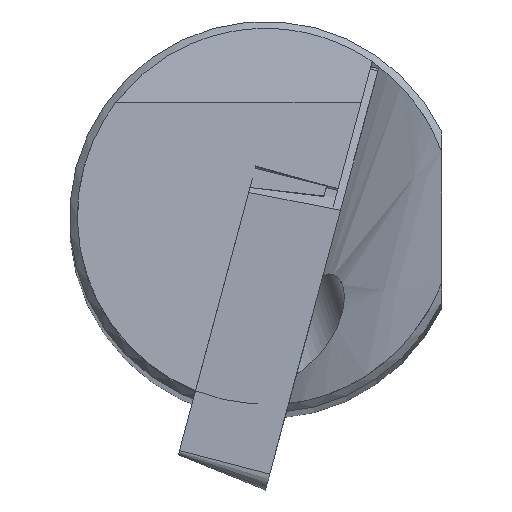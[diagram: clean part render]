
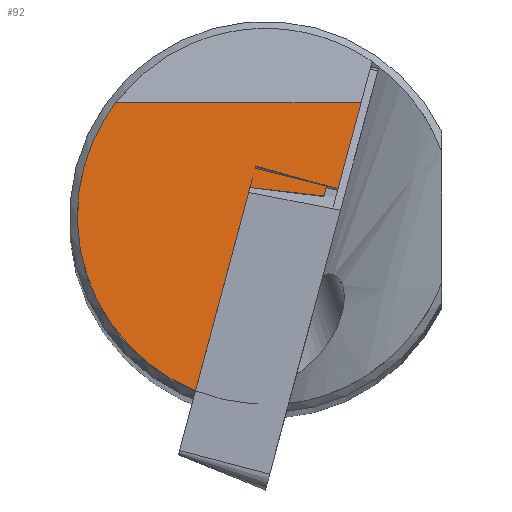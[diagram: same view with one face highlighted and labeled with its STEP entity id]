
A CAD part, top view. The second image highlights one B-rep face of the part: STEP entity #92.
In plain terms, the highlighted planar face has unit normal (0, 0.054, 0.999).
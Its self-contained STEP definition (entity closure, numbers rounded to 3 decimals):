
#92=ADVANCED_FACE('',(#157),#130,.F.);
#130=PLANE('',#701);
#157=FACE_OUTER_BOUND('',#191,.T.);
#191=EDGE_LOOP('',(#342,#343,#344,#345,#346,#347,#348,#349,#350));
#234=LINE('',#949,#288);
#235=LINE('',#951,#289);
#236=LINE('',#953,#290);
#237=LINE('',#955,#291);
#238=LINE('',#957,#292);
#239=LINE('',#959,#293);
#240=LINE('',#961,#294);
#241=LINE('',#963,#295);
#288=VECTOR('',#767,1.);
#289=VECTOR('',#768,1.);
#290=VECTOR('',#769,1.);
#291=VECTOR('',#770,1.);
#292=VECTOR('',#771,1.);
#293=VECTOR('',#772,1.);
#294=VECTOR('',#773,1.);
#295=VECTOR('',#774,1.);
#342=ORIENTED_EDGE('',*,*,#593,.F.);
#343=ORIENTED_EDGE('',*,*,#594,.F.);
#344=ORIENTED_EDGE('',*,*,#595,.F.);
#345=ORIENTED_EDGE('',*,*,#596,.T.);
#346=ORIENTED_EDGE('',*,*,#597,.T.);
#347=ORIENTED_EDGE('',*,*,#598,.F.);
#348=ORIENTED_EDGE('',*,*,#599,.T.);
#349=ORIENTED_EDGE('',*,*,#600,.F.);
#350=ORIENTED_EDGE('',*,*,#601,.T.);
#530=VERTEX_POINT('',#947);
#531=VERTEX_POINT('',#948);
#532=VERTEX_POINT('',#950);
#533=VERTEX_POINT('',#952);
#534=VERTEX_POINT('',#954);
#535=VERTEX_POINT('',#956);
#536=VERTEX_POINT('',#958);
#537=VERTEX_POINT('',#960);
#538=VERTEX_POINT('',#962);
#593=EDGE_CURVE('',#530,#531,#687,.T.);
#594=EDGE_CURVE('',#532,#530,#234,.T.);
#595=EDGE_CURVE('',#533,#532,#235,.T.);
#596=EDGE_CURVE('',#533,#534,#236,.T.);
#597=EDGE_CURVE('',#534,#535,#237,.T.);
#598=EDGE_CURVE('',#536,#535,#238,.T.);
#599=EDGE_CURVE('',#536,#537,#239,.T.);
#600=EDGE_CURVE('',#538,#537,#240,.T.);
#601=EDGE_CURVE('',#538,#531,#241,.T.);
#687=ELLIPSE('',#700,4.807,4.8);
#700=AXIS2_PLACEMENT_3D('',#946,#765,#766);
#701=AXIS2_PLACEMENT_3D('',#964,#775,#776);
#765=DIRECTION('',(0.,-0.054,-0.999));
#766=DIRECTION('',(0.,-0.999,0.054));
#767=DIRECTION('',(-0.258,-0.965,0.052));
#768=DIRECTION('',(-0.993,0.122,-0.007));
#769=DIRECTION('',(0.258,0.965,-0.052));
#770=DIRECTION('',(-0.971,0.239,-0.013));
#771=DIRECTION('',(-0.258,-0.965,0.052));
#772=DIRECTION('',(0.963,-0.268,0.015));
#773=DIRECTION('',(-0.258,-0.965,0.052));
#774=DIRECTION('',(-1.,0.,0.));
#775=DIRECTION('',(0.,-0.054,-0.999));
#776=DIRECTION('',(0.,0.999,-0.054));
#946=CARTESIAN_POINT('',(0.,0.,-0.389));
#947=CARTESIAN_POINT('',(-1.784,-4.456,-0.147));
#948=CARTESIAN_POINT('',(-3.825,2.9,-0.546));
#949=CARTESIAN_POINT('',(2.837,12.791,-1.083));
#950=CARTESIAN_POINT('',(-0.394,0.732,-0.428));
#951=CARTESIAN_POINT('',(1.751,0.468,-0.414));
#952=CARTESIAN_POINT('',(1.49,0.5,-0.416));
#953=CARTESIAN_POINT('',(4.654,12.306,-1.056));
#954=CARTESIAN_POINT('',(1.563,0.771,-0.43));
#955=CARTESIAN_POINT('',(-9.147,3.404,-0.573));
#956=CARTESIAN_POINT('',(-0.263,1.22,-0.455));
#957=CARTESIAN_POINT('',(2.837,12.791,-1.083));
#958=CARTESIAN_POINT('',(-0.247,1.282,-0.458));
#959=CARTESIAN_POINT('',(-9.407,3.826,-0.596));
#960=CARTESIAN_POINT('',(1.854,0.699,-0.427));
#961=CARTESIAN_POINT('',(0.128,-5.743,-0.077));
#962=CARTESIAN_POINT('',(2.444,2.9,-0.546));
#963=CARTESIAN_POINT('',(-6.235,2.9,-0.546));
#964=CARTESIAN_POINT('',(-6.235,15.215,-1.214));
